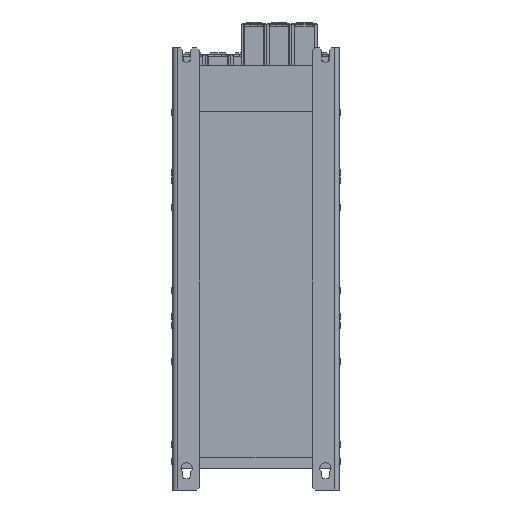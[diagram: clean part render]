
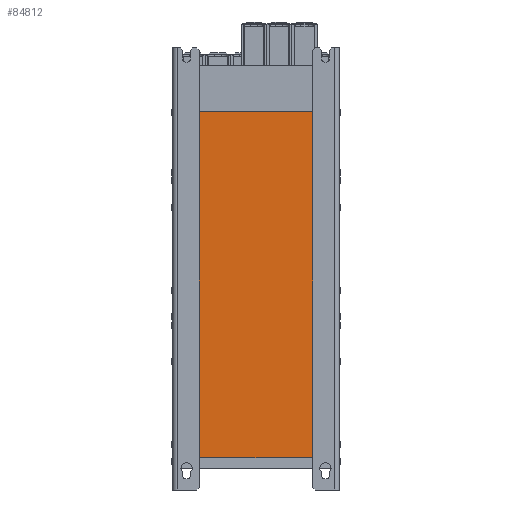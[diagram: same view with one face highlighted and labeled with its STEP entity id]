
A CAD part, front view. The second image highlights one B-rep face of the part: STEP entity #84812.
In plain terms, the highlighted planar face has unit normal (0, -1, 0).
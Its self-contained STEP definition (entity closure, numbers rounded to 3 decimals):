
#491 = ORIENTED_EDGE ( 'NONE', *, *, #33047, .T. ) ;
#1300 = VERTEX_POINT ( 'NONE', #17401 ) ;
#3738 = VECTOR ( 'NONE', #51603, 1000. ) ;
#4916 = LINE ( 'NONE', #49739, #50163 ) ;
#6039 = CARTESIAN_POINT ( 'NONE',  ( 155.9, -125., 403.5 ) ) ;
#6083 = VERTEX_POINT ( 'NONE', #80496 ) ;
#7195 = LINE ( 'NONE', #37426, #51278 ) ;
#7908 = CARTESIAN_POINT ( 'NONE',  ( 156., -125., 403.5 ) ) ;
#8188 = CARTESIAN_POINT ( 'NONE',  ( -153., -125., -185. ) ) ;
#8202 = CARTESIAN_POINT ( 'NONE',  ( 155.9, -125., 500. ) ) ;
#8906 = CARTESIAN_POINT ( 'NONE',  ( 153., -125., -185. ) ) ;
#9686 = VERTEX_POINT ( 'NONE', #6039 ) ;
#9737 = CARTESIAN_POINT ( 'NONE',  ( 155.9, -125., 400. ) ) ;
#11065 = EDGE_CURVE ( 'NONE', #88063, #98130, #91176, .T. ) ;
#13720 = CARTESIAN_POINT ( 'NONE',  ( -155.9, -125., 500. ) ) ;
#14261 = EDGE_CURVE ( 'NONE', #98142, #1300, #98734, .T. ) ;
#17401 = CARTESIAN_POINT ( 'NONE',  ( -153., -125., 400. ) ) ;
#19457 = DIRECTION ( 'NONE',  ( 0., 0., 1. ) ) ;
#19778 = LINE ( 'NONE', #9737, #51732 ) ;
#20920 = CARTESIAN_POINT ( 'NONE',  ( -155.9, -125., 500. ) ) ;
#21405 = LINE ( 'NONE', #51098, #87019 ) ;
#25629 = VECTOR ( 'NONE', #43000, 1000. ) ;
#28838 = ORIENTED_EDGE ( 'NONE', *, *, #39032, .T. ) ;
#29787 = CARTESIAN_POINT ( 'NONE',  ( 156., -125., 400. ) ) ;
#29998 = AXIS2_PLACEMENT_3D ( 'NONE', #88392, #55364, #19457 ) ;
#31354 = CARTESIAN_POINT ( 'NONE',  ( 153., -125., 400. ) ) ;
#31815 = ORIENTED_EDGE ( 'NONE', *, *, #91250, .T. ) ;
#33047 = EDGE_CURVE ( 'NONE', #98130, #98142, #56115, .T. ) ;
#33389 = DIRECTION ( 'NONE',  ( 0., 0., 1. ) ) ;
#35935 = CARTESIAN_POINT ( 'NONE',  ( 156., -125., 403.5 ) ) ;
#35973 = VECTOR ( 'NONE', #82301, 1000. ) ;
#36992 = DIRECTION ( 'NONE',  ( 1., 0., 0. ) ) ;
#37402 = CARTESIAN_POINT ( 'NONE',  ( -153., -125., 400. ) ) ;
#37426 = CARTESIAN_POINT ( 'NONE',  ( -203.788, -125., -185. ) ) ;
#38034 = CARTESIAN_POINT ( 'NONE',  ( -155.9, -125., 403.5 ) ) ;
#38457 = ORIENTED_EDGE ( 'NONE', *, *, #11065, .T. ) ;
#39032 = EDGE_CURVE ( 'NONE', #84339, #93834, #7195, .T. ) ;
#41205 = ORIENTED_EDGE ( 'NONE', *, *, #91674, .T. ) ;
#42658 = ORIENTED_EDGE ( 'NONE', *, *, #14261, .T. ) ;
#43000 = DIRECTION ( 'NONE',  ( -1., 0., 0. ) ) ;
#46649 = VECTOR ( 'NONE', #60463, 1000. ) ;
#49739 = CARTESIAN_POINT ( 'NONE',  ( -159.4, -125., 500. ) ) ;
#50163 = VECTOR ( 'NONE', #80405, 1000. ) ;
#51098 = CARTESIAN_POINT ( 'NONE',  ( 156., -125., 400. ) ) ;
#51278 = VECTOR ( 'NONE', #59030, 1000. ) ;
#51597 = LINE ( 'NONE', #65672, #35973 ) ;
#51603 = DIRECTION ( 'NONE',  ( 0., 0., -1. ) ) ;
#51732 = VECTOR ( 'NONE', #33389, 1000. ) ;
#52914 = CARTESIAN_POINT ( 'NONE',  ( 156., -125., 403.5 ) ) ;
#54345 = DIRECTION ( 'NONE',  ( 0., 0., 1. ) ) ;
#54973 = VECTOR ( 'NONE', #54345, 1000. ) ;
#55364 = DIRECTION ( 'NONE',  ( 0., 1., 0. ) ) ;
#56115 = LINE ( 'NONE', #85345, #95934 ) ;
#57682 = PLANE ( 'NONE',  #29998 ) ;
#58446 = ORIENTED_EDGE ( 'NONE', *, *, #92727, .T. ) ;
#59030 = DIRECTION ( 'NONE',  ( 1., 0., 0. ) ) ;
#59138 = LINE ( 'NONE', #20920, #3738 ) ;
#60463 = DIRECTION ( 'NONE',  ( 1., 0., 0. ) ) ;
#60915 = VERTEX_POINT ( 'NONE', #13720 ) ;
#62379 = LINE ( 'NONE', #69923, #54973 ) ;
#63081 = EDGE_LOOP ( 'NONE', ( #58446, #28838, #96827, #31815, #90169, #92562, #41205, #94435, #94978, #38457, #491, #42658 ) ) ;
#64623 = LINE ( 'NONE', #35935, #25629 ) ;
#65672 = CARTESIAN_POINT ( 'NONE',  ( 153., -125., -400. ) ) ;
#69923 = CARTESIAN_POINT ( 'NONE',  ( 156., -125., 403.5 ) ) ;
#70084 = EDGE_CURVE ( 'NONE', #74766, #9686, #64623, .T. ) ;
#71144 = VECTOR ( 'NONE', #82181, 1000. ) ;
#74129 = LINE ( 'NONE', #37402, #71144 ) ;
#74561 = EDGE_CURVE ( 'NONE', #85388, #60915, #4916, .T. ) ;
#74766 = VERTEX_POINT ( 'NONE', #7908 ) ;
#78048 = EDGE_CURVE ( 'NONE', #93834, #84368, #51597, .T. ) ;
#80405 = DIRECTION ( 'NONE',  ( -1., 0., 0. ) ) ;
#80496 = CARTESIAN_POINT ( 'NONE',  ( 156., -125., 400. ) ) ;
#80702 = VECTOR ( 'NONE', #93543, 1000. ) ;
#82181 = DIRECTION ( 'NONE',  ( 0., 0., -1. ) ) ;
#82301 = DIRECTION ( 'NONE',  ( 0., 0., 1. ) ) ;
#82400 = CARTESIAN_POINT ( 'NONE',  ( -156., -125., 400. ) ) ;
#83908 = CARTESIAN_POINT ( 'NONE',  ( -156., -125., 403.5 ) ) ;
#84339 = VERTEX_POINT ( 'NONE', #8188 ) ;
#84368 = VERTEX_POINT ( 'NONE', #31354 ) ;
#84812 = ADVANCED_FACE ( 'NONE', ( #93630 ), #57682, .F. ) ;
#85345 = CARTESIAN_POINT ( 'NONE',  ( -156., -125., 403.5 ) ) ;
#85388 = VERTEX_POINT ( 'NONE', #8202 ) ;
#86829 = DIRECTION ( 'NONE',  ( 0., 0., -1. ) ) ;
#87019 = VECTOR ( 'NONE', #36992, 1000. ) ;
#88063 = VERTEX_POINT ( 'NONE', #38034 ) ;
#88392 = CARTESIAN_POINT ( 'NONE',  ( -144., -125., 400. ) ) ;
#90169 = ORIENTED_EDGE ( 'NONE', *, *, #91819, .T. ) ;
#91176 = LINE ( 'NONE', #52914, #80702 ) ;
#91250 = EDGE_CURVE ( 'NONE', #84368, #6083, #21405, .T. ) ;
#91674 = EDGE_CURVE ( 'NONE', #9686, #85388, #19778, .T. ) ;
#91819 = EDGE_CURVE ( 'NONE', #6083, #74766, #62379, .T. ) ;
#92562 = ORIENTED_EDGE ( 'NONE', *, *, #70084, .T. ) ;
#92727 = EDGE_CURVE ( 'NONE', #1300, #84339, #74129, .T. ) ;
#93543 = DIRECTION ( 'NONE',  ( -1., 0., 0. ) ) ;
#93630 = FACE_OUTER_BOUND ( 'NONE', #63081, .T. ) ;
#93834 = VERTEX_POINT ( 'NONE', #8906 ) ;
#94152 = EDGE_CURVE ( 'NONE', #60915, #88063, #59138, .T. ) ;
#94435 = ORIENTED_EDGE ( 'NONE', *, *, #74561, .T. ) ;
#94978 = ORIENTED_EDGE ( 'NONE', *, *, #94152, .T. ) ;
#95934 = VECTOR ( 'NONE', #86829, 1000. ) ;
#96827 = ORIENTED_EDGE ( 'NONE', *, *, #78048, .T. ) ;
#98130 = VERTEX_POINT ( 'NONE', #83908 ) ;
#98142 = VERTEX_POINT ( 'NONE', #82400 ) ;
#98734 = LINE ( 'NONE', #29787, #46649 ) ;
